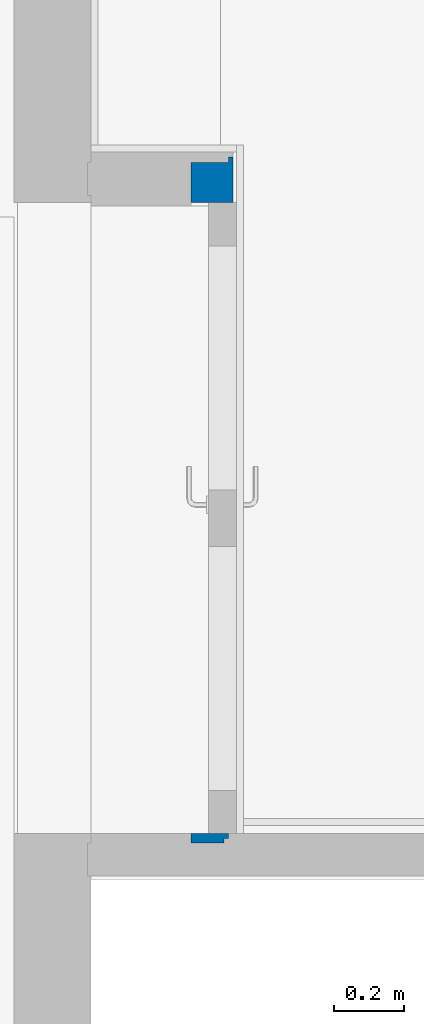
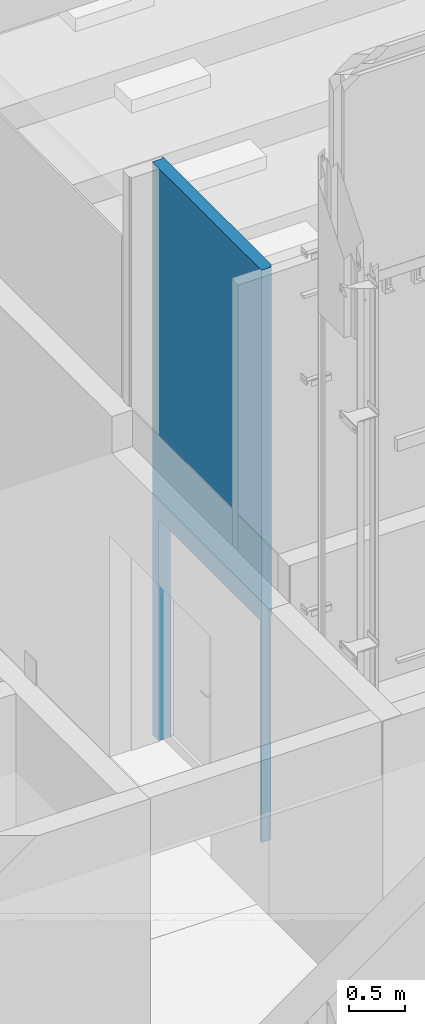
# One storey, part 121 of 246: 1 wall, 1 opening.
"""IFC2X3 building model written with IfcOpenShell, lengths in millimetres."""

from ifc_helpers import new_model, entity, si_unit, converted_unit, derived_unit, money_unit, direction, frame, origin_with_axes, place, context, subcontext, project, spatial, faceted_brep, material, material_list, type_object, element, save


model = new_model("IFC2X3")

# Units and contexts
model_context = context("Model", 3, precision=0.01, world=origin_with_axes(), true_north=direction((0.0, 1.0)))
body_context = subcontext(model_context, "Body", "Model", "MODEL_VIEW")
ifc_project = project(units=[si_unit("LENGTHUNIT", "METRE", prefix="MILLI"), si_unit("AREAUNIT", "SQUARE_METRE"), si_unit("VOLUMEUNIT", "CUBIC_METRE"), converted_unit("PLANEANGLEUNIT", "DEGREE", entity("IfcPlaneAngleMeasure", 0.0174532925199), si_unit("PLANEANGLEUNIT", "RADIAN"), dimensions=[0, 0, 0, 0, 0, 0, 0]), si_unit("SOLIDANGLEUNIT", "STERADIAN"), money_unit("EUR"), converted_unit("TIMEUNIT", "Year", entity("IfcTimeMeasure", 31556926.0), si_unit("TIMEUNIT", "SECOND"), dimensions=[0, 0, 1, 0, 0, 0, 0]), si_unit("MASSUNIT", "GRAM", prefix="KILO"), si_unit("THERMODYNAMICTEMPERATUREUNIT", "DEGREE_CELSIUS"), si_unit("LUMINOUSINTENSITYUNIT", "LUMEN"), si_unit("ENERGYUNIT", "JOULE", prefix="MEGA"), derived_unit("THERMALCONDUCTANCEUNIT", [(si_unit("POWERUNIT", "WATT"), 1), (si_unit("LENGTHUNIT", "METRE"), -1), (si_unit("THERMODYNAMICTEMPERATUREUNIT", "KELVIN"), -1)]), derived_unit("SPECIFICHEATCAPACITYUNIT", [(si_unit("ENERGYUNIT", "JOULE"), 1), (si_unit("MASSUNIT", "GRAM", prefix="KILO"), -1), (si_unit("THERMODYNAMICTEMPERATUREUNIT", "KELVIN"), -1)]), derived_unit("MASSDENSITYUNIT", [(si_unit("MASSUNIT", "GRAM", prefix="KILO"), 1), (si_unit("VOLUMEUNIT", "CUBIC_METRE"), -1)])], contexts=[model_context])

# Site, building, storey
site_placement = place(None, origin_with_axes())
site = spatial("IfcSite", under=ifc_project, at=site_placement, Name="L.Koidula tn 11b", CompositionType="ELEMENT")
building_placement = place(site_placement, origin_with_axes())
building = spatial("IfcBuilding", under=site, at=building_placement, Name="Rakvere Riigigümnaasium", CompositionType="ELEMENT")
storey_placement = place(building_placement, origin_with_axes())
storey = spatial("IfcBuildingStorey", under=building, at=storey_placement, Name="1.korrus 0,00", CompositionType="ELEMENT", Elevation=0.0)

# Wall, opening
ifc_material_1 = material(Name="mineraalvill+karkass")
ifc_material_2 = material(Name="Kipsplaat")
ifc_material_list = material_list([ifc_material_1, ifc_material_2, ifc_material_2])
wall_type = type_object("IfcWallType", Name="SS-06 121", PredefinedType="NOTDEFINED")
wall_placement = place(storey_placement, frame((47494.9999935, 18140.4561739, 0.0), z_axis=(0.0, 0.0, 1.0), x_axis=(0.0, 1.0, 0.0)))
wall = element("IfcWall", 1, at=wall_placement, inside=storey, type_object=wall_type, material=ifc_material_list, Name="Sisesein", context=body_context, shape_type="Brep", body=[
    faceted_brep([(0.0, -95.0000184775, 0.0), (0.0, -95.0, 2400.0), (1800.0, -95.0, 2400.0), (1800.0, -95.0000184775, 0.0), (1914.9993354, -95.0, 0.0), (1914.9993354, -95.0, 6215.0), (-26.0006644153, -95.0, 6215.0), (-26.0006644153, -95.0, 0.0), (0.0, 2.89082819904e-05, 0.0), (0.0, 2.89082819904e-05, 2400.0), (1789.99929837, 2.89082819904e-05, 2400.0), (1800.0, -7.80697043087, 2400.0), (1800.0, -7.80697043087, 0.0), (1789.99929837, 2.89082819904e-05, 0.0), (1914.9993354, 0.0, 0.0), (1914.9993354, 0.0, 6215.0), (-26.0006644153, 0.0, 6215.0), (-26.0006644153, 0.0, 0.0)], [[[0, 1, 2, 3, 4, 5, 6, 7]], [[1, 0, 8, 9]], [[2, 1, 9, 10, 11]], [[3, 2, 11, 12]], [[12, 13, 14, 4, 3]], [[14, 15, 5, 4]], [[6, 5, 15, 16]], [[7, 6, 16, 17]], [[8, 0, 7, 17]], [[9, 8, 17, 16, 15, 14, 13, 10]], [[13, 12, 11, 10]]]),
    faceted_brep([(0.0, -108.0, 0.0), (0.0, -108.0, 2400.0), (1800.0, -108.0, 2400.0), (1800.0, -108.0, 0.0), (1914.9993354, -108.0, 0.0), (1914.9993354, -108.0, 6215.0), (-13.0006644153, -108.0, 6215.0), (-13.0006644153, -108.0, 0.0), (0.0, -95.0000184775, 0.0), (0.0, -95.0, 2400.0), (1800.0, -95.0, 2400.0), (1800.0, -95.0000184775, 0.0), (1914.9993354, -95.0, 0.0), (1914.9993354, -95.0, 6215.0), (-13.0006644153, -95.0, 6215.0), (-13.0006644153, -95.0, 0.0)], [[[0, 1, 2, 3, 4, 5, 6, 7]], [[1, 0, 8, 9]], [[2, 1, 9, 10]], [[3, 2, 10, 11]], [[3, 11, 12, 4]], [[12, 13, 5, 4]], [[6, 5, 13, 14]], [[7, 6, 14, 15]], [[8, 0, 7, 15]], [[9, 8, 15, 14, 13, 12, 11, 10]]]),
    faceted_brep([(1800.0, -121.0, 2400.0), (1800.0, -121.0, 0.0), (1929.9993354, -121.0, 0.0), (1929.9993354, -121.0, 6215.0), (-0.000664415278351, -121.0, 6215.0), (0.0, -121.0, 2400.0), (1800.0, -108.0, 2400.0), (1800.0, -108.0, 0.0), (1929.9993354, -108.0, 0.0), (1929.9993354, -108.0, 6215.0), (-0.000664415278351, -108.0, 6215.0), (0.0, -108.0, 2400.0)], [[[0, 1, 2, 3, 4, 5]], [[1, 0, 6, 7]], [[1, 7, 8, 2]], [[8, 9, 3, 2]], [[4, 3, 9, 10]], [[11, 5, 4, 10]], [[0, 5, 11, 6]], [[6, 11, 10, 9, 8, 7]]]),
])
opening_placement = place(wall_placement, frame((900.0, 0.0, 0.0), z_axis=(0.0, 0.0, 1.0), x_axis=(1.0, 0.0, 0.0)))
element("IfcOpeningElement", 2, at=opening_placement, cuts=wall, Name="SU-014", context=body_context, shape_type="Brep", body=[
    faceted_brep([(900.0, -242.0, 2400.0), (900.0, -242.0, 0.0), (900.0, -50.0, 0.0), (900.0, -50.0, 2400.0), (-900.0, -242.0, 2400.0), (-900.0, -242.0, 0.0), (-900.0, -50.0, 0.0), (-900.0, -50.0, 2400.0)], [[[0, 1, 2, 3]], [[0, 4, 5, 1]], [[1, 5, 6, 2]], [[3, 2, 6, 7]], [[4, 0, 3, 7]], [[5, 4, 7, 6]]]),
    faceted_brep([(900.0, 121.0, 0.0), (900.0, 121.0, 2400.0), (900.0, -50.0, 2400.0), (900.0, -50.0, 0.0), (-900.0, 121.0, 0.0), (-900.0, 121.0, 2400.0), (-900.0, -50.0, 2400.0), (-900.0, -50.0, 0.0)], [[[0, 1, 2, 3]], [[0, 4, 5, 1]], [[1, 5, 6, 2]], [[3, 2, 6, 7]], [[4, 0, 3, 7]], [[5, 4, 7, 6]]]),
])

save(model, "model.ifc")
